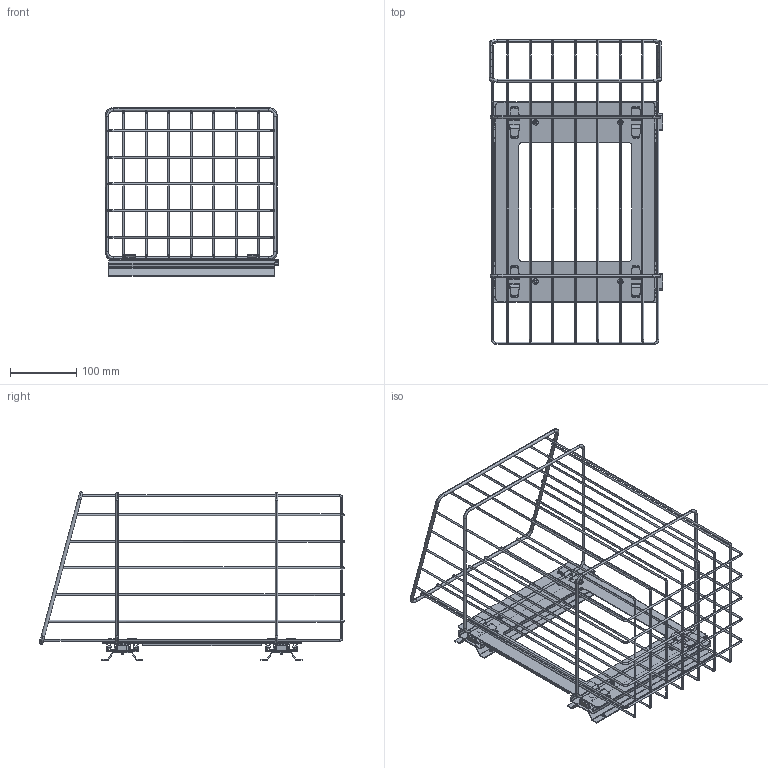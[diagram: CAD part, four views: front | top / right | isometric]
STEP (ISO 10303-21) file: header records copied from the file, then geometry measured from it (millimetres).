
FILE_DESCRIPTION (( 'STEP AP203' ), '1' );
FILE_NAME ('LM683kokoonpano.STEP', '2023-01-31T09:35:03', ( '' ), ( '' ), 'SwSTEP 2.0', 'SolidWorks 2021', '' );
FILE_SCHEMA (( 'CONFIG_CONTROL_DESIGN' ));
Length unit declared in the file: millimetre
Products named in the file (7): 10770_Default<As Machined>; Kupukanta_4x10.5; 10771_Default<As Machined>; 10710; LM683kokoonpano; 10724; 10711_Default<As Machined>
Assembly tree (16 placements, depth 2):
  LM683kokoonpano
    10770_Default<As Machined>  x2
    10771_Default<As Machined>  x2
    10711_Default<As Machined>
    10710
    10724  x2
    Kupukanta_4x10.5  x8
Bounding box: 262.25 x 459.5 x 254.15 mm (x, y, z)
Volume: 326997.8 mm3; surface area: 479781.9 mm2
Topology: 58 solids, 58 shells, 1252 faces, 3146 edges, 1956 vertices
Faces by surface type: plane 574, cylinder 510, torus 72, sphere 64, bspline 32
Entity records: 25984 total; most frequent: CARTESIAN_POINT 5363, DIRECTION 4269, ORIENTED_EDGE 4006, EDGE_CURVE 2003, AXIS2_PLACEMENT_3D 1570, VERTEX_POINT 1240, VECTOR 1129, LINE 1129
